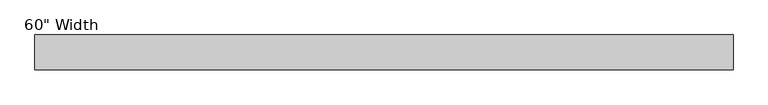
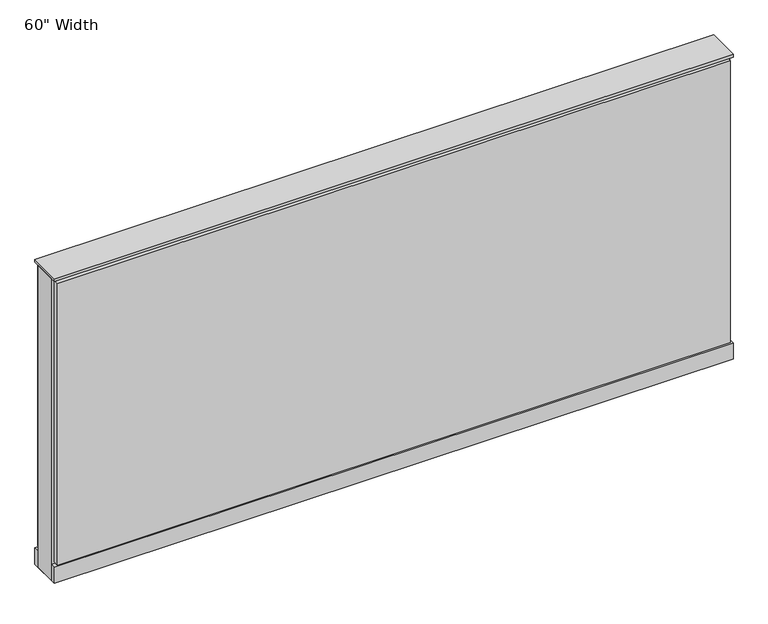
"""IFC4 building model written with IfcOpenShell, lengths in millimetres: furniture geometry."""

from ifc_helpers import new_model, si_unit, point, frame, frame_2d, origin, origin_with_axes, place, context, project, spatial, polyline, circle_curve, trimmed, segment, composite_curve, outline, extrude, source, transform, mapped, element, save


def furniture_8b97164d(model_context):
    return source(origin(), model_context, "Body", "SweptSolid", [
        extrude(outline(composite_curve([segment(trimmed(circle_curve(frame_2d((688.2402902, 0.0)), 12.7), [point((675.5402902, 0.0))], [point((700.9402902, 0.0))], False, "CARTESIAN"), True, "CONTINUOUS"), segment(trimmed(circle_curve(frame_2d((688.2402902, 0.0)), 12.7), [point((700.9402902, 0.0))], [point((675.5402902, 0.0))], False, "CARTESIAN"), True, "CONTINUOUS")], self_intersect=False)), origin_with_axes(), (0.0, 0.0, 1.0), 12.7),
        extrude(outline(composite_curve([segment(trimmed(circle_curve(frame_2d((-683.3597098, 0.0)), 12.7), [point((-696.0597098, 0.0))], [point((-670.6597098, 0.0))], False, "CARTESIAN"), True, "CONTINUOUS"), segment(trimmed(circle_curve(frame_2d((-683.3597098, 0.0)), 12.7), [point((-670.6597098, 0.0))], [point((-696.0597098, 0.0))], False, "CARTESIAN"), True, "CONTINUOUS")], self_intersect=False)), origin_with_axes(), (0.0, 0.0, 1.0), 12.7),
        extrude(outline(polyline([(758.0902902, 38.1), (758.0902902, 25.4), (-753.2097098, 25.4), (-753.2097098, 38.1), (758.0902902, 38.1)])), frame((0.0, 0.0, 53.975), z_axis=(0.0, 0.0, 1.0), x_axis=(1.0, 0.0, 0.0)), (0.0, 0.0, 1.0), 669.925),
        extrude(outline(polyline([(758.0902902, -38.1), (-753.2097098, -38.1), (-753.2097098, -25.4), (758.0902902, -25.4), (758.0902902, -38.1)])), frame((0.0, 0.0, 53.975), z_axis=(0.0, 0.0, 1.0), x_axis=(1.0, 0.0, 0.0)), (0.0, 0.0, 1.0), 669.925),
        extrude(outline(polyline([(764.4402902, 25.4), (764.4402902, -25.4), (-759.5597098, -25.4), (-759.5597098, 25.4), (764.4402902, 25.4)])), frame((0.0, 0.0, 12.7), z_axis=(0.0, 0.0, 1.0), x_axis=(1.0, 0.0, 0.0)), (0.0, 0.0, 1.0), 717.55),
        extrude(outline(polyline([(-759.5597098, -38.1), (-759.5597098, 38.1), (764.4402902, 38.1), (764.4402902, -38.1), (-759.5597098, -38.1)])), frame((0.0, 0.0, 12.7), z_axis=(0.0, 0.0, 1.0), x_axis=(1.0, 0.0, 0.0)), (0.0, 0.0, 1.0), 38.1),
        extrude(outline(polyline([(-759.5597098, -38.1), (-759.5597098, 38.1), (764.4402902, 38.1), (764.4402902, -38.1), (-759.5597098, -38.1)])), frame((0.0, 0.0, 730.25), z_axis=(0.0, 0.0, 1.0), x_axis=(1.0, 0.0, 0.0)), (0.0, 0.0, 1.0), 6.35),
    ])


if __name__ == "__main__":
    model = new_model("IFC4")
    model_context = context("Model", 3, world=origin())
    ifc_project = project(units=[si_unit("LENGTHUNIT", "METRE", prefix="MILLI")], contexts=[model_context])
    site = spatial("IfcSite", under=ifc_project)
    building = spatial("IfcBuilding", under=site)
    placement = place(None, origin())
    furniture_shape = furniture_8b97164d(model_context)
    element("IfcFurniture", 1, ObjectType="Haworth_Compose-Panel-Benching : 60\" Width", at=placement, inside=building, context=model_context, shape_type="MappedRepresentation", body=[
        mapped(furniture_shape, transform((0.0, 0.0, 0.0), x_axis=(1.0, 0.0, 0.0), y_axis=(0.0, 1.0, 0.0), z_axis=(0.0, 0.0, 1.0))),
    ])
    save(model, "model.ifc")
